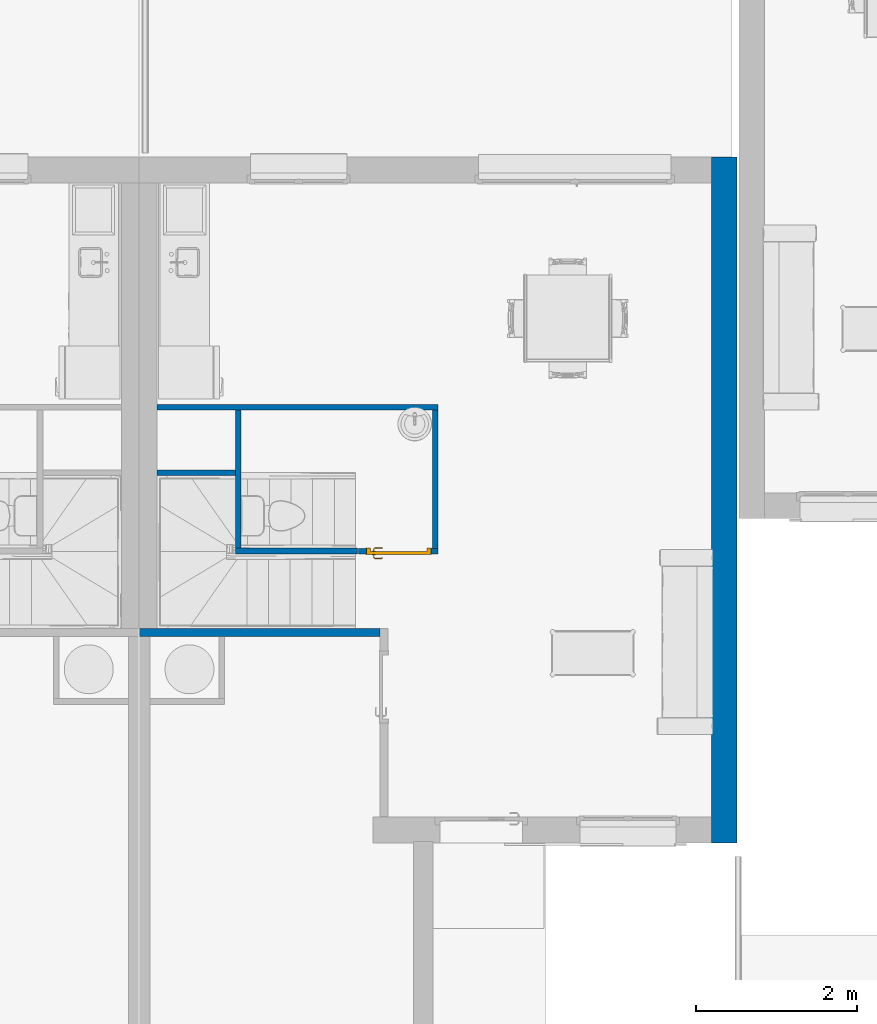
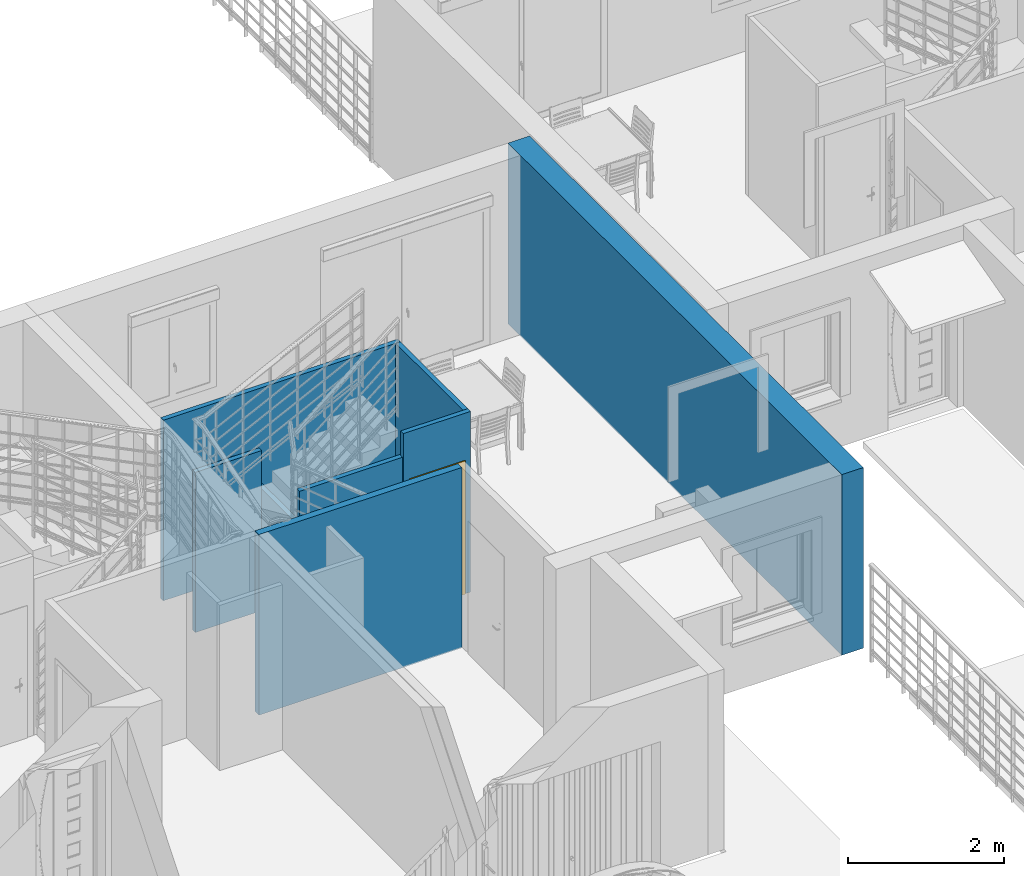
# One storey, part 11 of 33: 8 walls, 1 door, 1 opening.
"""IFC2X3 building model written with IfcOpenShell, lengths in metres."""

from ifc_helpers import new_model, entity, si_unit, converted_unit, derived_unit, direction, frame, frame_2d, origin, place, context, subcontext, project, spatial, rectangle, extrude, faceted_brep, source, transform, mapped, material, material_list, layer, layer_set, layer_usage, type_object, type_shapes, element, fill, save


model = new_model("IFC2X3")

# Units and contexts
model_context = context("Model", 3, precision=1e-05, world=origin(), true_north=direction((6.12303176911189e-17, 1.0)))
context_of_model = context(None, 3, precision=1e-05, world=origin(), true_north=direction((6.12303176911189e-17, 1.0)))
body_context = subcontext(model_context, "Body", "Model", "MODEL_VIEW")
ifc_project = project(units=[si_unit("LENGTHUNIT", "METRE"), si_unit("AREAUNIT", "SQUARE_METRE"), si_unit("VOLUMEUNIT", "CUBIC_METRE"), converted_unit("PLANEANGLEUNIT", "DEGREE", entity("IfcRatioMeasure", 0.0174532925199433), si_unit("PLANEANGLEUNIT", "RADIAN"), dimensions=[0, 0, 0, 0, 0, 0, 0]), si_unit("MASSUNIT", "GRAM", prefix="KILO"), si_unit("TIMEUNIT", "SECOND"), si_unit("FREQUENCYUNIT", "HERTZ"), si_unit("THERMODYNAMICTEMPERATUREUNIT", "DEGREE_CELSIUS"), derived_unit("THERMALTRANSMITTANCEUNIT", [(si_unit("MASSUNIT", "GRAM", prefix="KILO"), 1), (si_unit("THERMODYNAMICTEMPERATUREUNIT", "KELVIN"), -1), (si_unit("TIMEUNIT", "SECOND"), -3)]), derived_unit("VOLUMETRICFLOWRATEUNIT", [(si_unit("LENGTHUNIT", "METRE"), 3), (si_unit("TIMEUNIT", "SECOND"), -1)]), si_unit("ELECTRICCURRENTUNIT", "AMPERE"), si_unit("ELECTRICVOLTAGEUNIT", "VOLT"), si_unit("POWERUNIT", "WATT"), si_unit("FORCEUNIT", "NEWTON", prefix="KILO"), si_unit("ILLUMINANCEUNIT", "LUX"), si_unit("LUMINOUSFLUXUNIT", "LUMEN"), si_unit("LUMINOUSINTENSITYUNIT", "CANDELA"), si_unit("PRESSUREUNIT", "PASCAL")], contexts=[model_context, context_of_model])

# Site, building, storey
site_placement = place(None, origin())
site = spatial("IfcSite", under=ifc_project, at=site_placement, Name="Surface", CompositionType="ELEMENT")
building_placement = place(site_placement, origin())
building = spatial("IfcBuilding", under=site, at=building_placement, CompositionType="ELEMENT")
storey_placement = place(building_placement, origin())
storey = spatial("IfcBuildingStorey", under=building, at=storey_placement, Name="Plan des fondations  Maisons 1 et 2", CompositionType="ELEMENT", Elevation=0.0)

# Walls
ifc_material_1 = material(Name="Enduit blanc cassé2")
ifc_layer_1 = layer(ifc_material_1, 0.02)
ifc_material_2 = material(Name="Parpaing")
ifc_layer_2 = layer(ifc_material_2, 0.2)
ifc_material_3 = material(Name="Isolant")
ifc_layer_3 = layer(ifc_material_3, 0.1)
ifc_layer_set_1 = layer_set([ifc_layer_1, ifc_layer_2, ifc_layer_3], Name="Mur de base:Ext. Parpaing 20 + Isolant 10 enduit blanc cassé")
ifc_layer_usage_1 = layer_usage(ifc_layer_set_1, "AXIS2", "POSITIVE", -0.16)
wall_type_1 = type_object("IfcWallType", Name="Mur de base:Ext. Parpaing 20 + Isolant 10 enduit blanc cassé", PredefinedType="STANDARD", material=ifc_layer_set_1)
wall_1_placement = place(storey_placement, frame((76.122889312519, 79.8877566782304, 0.0), z_axis=(0.0, 0.0, 1.0), x_axis=(0.0, 1.0, 0.0)))
element("IfcWallStandardCase", 1, at=wall_1_placement, inside=storey, type_object=wall_type_1, material=ifc_layer_usage_1, Name="Mur de base:Ext. Parpaing 20 + Isolant 10 enduit blanc cassé", ObjectType="Mur de base:Ext. Parpaing 20 + Isolant 10 enduit blanc cassé", context=body_context, shape_type="SweptSolid", body=[
    extrude(rectangle(XDim=8.54, YDim=0.319999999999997, at=frame_2d((4.27, 9.85322934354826e-16), x_axis=(-1.0, 0.0))), origin(), (0.0, 0.0, 1.0), 2.82),
])
ifc_material_4 = material(Name="Peinture - Blanc")
ifc_layer_4 = layer(ifc_material_4, 0.1)
ifc_layer_set_2 = layer_set([ifc_layer_4], Name="Mur de base:Int.  Platre 100 mm en blanc 2")
ifc_layer_usage_2 = layer_usage(ifc_layer_set_2, "AXIS2", "NEGATIVE", 0.05)
wall_type_2 = type_object("IfcWallType", Name="Mur de base:Int.  Platre 100 mm en blanc 2", PredefinedType="STANDARD", material=ifc_layer_set_2)
wall_2_placement = place(storey_placement, frame((71.8346263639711, 82.5077566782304, 0.0), z_axis=(0.0, 0.0, 1.0), x_axis=(-1.0, 0.0, 0.0)))
element("IfcWallStandardCase", 2, at=wall_2_placement, inside=storey, type_object=wall_type_2, material=ifc_layer_usage_2, Name="Mur de base:Int.  Platre 100 mm en blanc 2", ObjectType="Mur de base:Int.  Platre 100 mm en blanc 2", context=body_context, shape_type="SweptSolid", body=[
    extrude(rectangle(XDim=2.99500000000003, YDim=0.100000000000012, at=frame_2d((1.49750000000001, 0.0), x_axis=(-1.0, 0.0))), origin(), (0.0, 0.0, 1.0), 2.82),
])
ifc_layer_5 = layer(ifc_material_4, 0.07)
ifc_layer_set_3 = layer_set([ifc_layer_5], Name="Mur de base:Int.  Platre 70 mm en blanc")
ifc_layer_usage_3 = layer_usage(ifc_layer_set_3, "AXIS2", "NEGATIVE", 0.035)
wall_type_3 = type_object("IfcWallType", Name="Mur de base:Int.  Platre 70 mm en blanc", PredefinedType="STANDARD", material=ifc_layer_set_3)
wall_3_placement = place(storey_placement, frame((69.0546263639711, 85.3127566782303, 0.0)))
element("IfcWallStandardCase", 3, at=wall_3_placement, inside=storey, type_object=wall_type_3, material=ifc_layer_usage_3, Name="Mur de base:Int.  Platre 70 mm en blanc", ObjectType="Mur de base:Int.  Platre 70 mm en blanc", context=body_context, shape_type="SweptSolid", body=[
    extrude(rectangle(XDim=3.50211659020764, YDim=0.0699999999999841, at=frame_2d((1.75105829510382, 7.45931094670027e-16), x_axis=(-1.0, 0.0))), origin(), (0.0, 0.0, 1.0), 2.82),
])
ifc_layer_usage_4 = layer_usage(ifc_layer_set_3, "AXIS2", "NEGATIVE", 0.035)
wall_4_placement = place(storey_placement, frame((72.5217429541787, 83.5546279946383, 0.0), z_axis=(0.0, 0.0, 1.0), x_axis=(0.0, 1.0, 0.0)))
element("IfcWallStandardCase", 4, at=wall_4_placement, inside=storey, type_object=wall_type_3, material=ifc_layer_usage_4, Name="Mur de base:Int.  Platre 70 mm en blanc", ObjectType="Mur de base:Int.  Platre 70 mm en blanc", context=body_context, shape_type="SweptSolid", body=[
    extrude(rectangle(XDim=1.72312868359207, YDim=0.0700000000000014, at=frame_2d((0.861564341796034, 0.0), x_axis=(-1.0, 0.0))), origin(), (0.0, 0.0, 1.0), 2.82),
])
ifc_layer_usage_5 = layer_usage(ifc_layer_set_3, "AXIS2", "NEGATIVE", 0.035)
wall_5_placement = place(storey_placement, frame((70.0346263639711, 83.5227566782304, 0.0)))
element("IfcWallStandardCase", 5, at=wall_5_placement, inside=storey, type_object=wall_type_3, material=ifc_layer_usage_5, Name="Mur de base:Int.  Platre 70 mm en blanc", ObjectType="Mur de base:Int.  Platre 70 mm en blanc", context=body_context, shape_type="SweptSolid", body=[
    extrude(rectangle(XDim=1.52171659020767, YDim=0.0699999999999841, at=frame_2d((0.760858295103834, 3.60128593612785e-15), x_axis=(-1.0, 0.0))), origin(), (0.0, 0.0, 1.0), 2.45350535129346),
])
ifc_layer_usage_6 = layer_usage(ifc_layer_set_3, "AXIS2", "NEGATIVE", 0.035)
wall_6_placement = place(storey_placement, frame((70.0696263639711, 83.5577566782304, 0.0), z_axis=(0.0, 0.0, 1.0), x_axis=(0.0, 1.0, 0.0)))
element("IfcWallStandardCase", 6, at=wall_6_placement, inside=storey, type_object=wall_type_3, material=ifc_layer_usage_6, Name="Mur de base:Int.  Platre 70 mm en blanc", ObjectType="Mur de base:Int.  Platre 70 mm en blanc", context=body_context, shape_type="SweptSolid", body=[
    extrude(rectangle(XDim=1.71999999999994, YDim=0.0700000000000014, at=frame_2d((0.859999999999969, 0.0), x_axis=(-1.0, 0.0))), origin(), (0.0, 0.0, 1.0), 1.9),
])

# Wall, opening, door
ifc_layer_usage_7 = layer_usage(ifc_layer_set_3, "AXIS2", "NEGATIVE", 0.035)
wall_7_placement = place(storey_placement, frame((71.5663429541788, 83.5196279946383, 0.0)))
wall_7 = element("IfcWallStandardCase", 7, at=wall_7_placement, inside=storey, type_object=wall_type_3, material=ifc_layer_usage_7, Name="Mur de base:Int.  Platre 70 mm en blanc", ObjectType="Mur de base:Int.  Platre 70 mm en blanc", context=body_context, shape_type="SweptSolid", body=[
    extrude(rectangle(XDim=0.990399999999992, YDim=0.0699999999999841, at=frame_2d((0.495199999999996, 2.43208231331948e-15), x_axis=(-1.0, 0.0))), origin(), (0.0, 0.0, 1.0), 2.82),
])
opening_placement = place(wall_7_placement, frame((0.900399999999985, 0.035000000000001, 0.0)))
opening = element("IfcOpeningElement", 8, at=opening_placement, cuts=wall_7, Name="FR_Simple (R):73 x 204 - (70):1", ObjectType="Opening", context=body_context, shape_type="SweptSolid", body=[
    extrude(rectangle(XDim=2.075, YDim=0.799999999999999, at=frame_2d((1.0375, 0.4), x_axis=(1.0, 0.0))), frame((0.0, 0.0, 0.0), z_axis=(0.0, -1.0, 0.0), x_axis=(0.0, 0.0, 1.0)), (0.0, 0.0, 1.0), 0.07),
])
ifc_material_5 = material(Name="Poignée Porte")
ifc_material_6 = material(Name="Dormants Portes")
ifc_material_7 = material(Name="Panneaux Portes")
ifc_material_list_1 = material_list([ifc_material_5, ifc_material_6, ifc_material_7])
ifc_material_list_2 = material_list([ifc_material_5, ifc_material_6, ifc_material_7])
door_style = type_object("IfcDoorStyle", Name="73 x 204 - (70)", ConstructionType="NOTDEFINED", OperationType="SINGLE_SWING_LEFT", ParameterTakesPrecedence=False, Sizeable=False, material=ifc_material_list_2)
shared_shape = source(origin(), body_context, "Body", "Brep", [
    faceted_brep([(0.100352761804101, -0.0130000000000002, 0.766003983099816), (0.11, -0.0130000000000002, 0.770000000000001), (0.11, -0.0130000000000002, 0.980000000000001), (0.100352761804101, -0.0130000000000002, 0.983996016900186), (0.0900000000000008, -0.0130000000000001, 0.985358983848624), (0.0796472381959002, -0.0130000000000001, 0.983996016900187), (0.0700000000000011, -0.0130000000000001, 0.980000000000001), (0.0700000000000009, -0.0130000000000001, 0.770000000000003), (0.0796472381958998, -0.0130000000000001, 0.766003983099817), (0.0900000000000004, -0.0130000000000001, 0.764641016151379), (0.100352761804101, -0.00800000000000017, 0.983996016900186), (0.11, -0.00800000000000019, 0.980000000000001), (0.11, -0.00800000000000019, 0.770000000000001), (0.100352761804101, -0.00800000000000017, 0.766003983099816), (0.0900000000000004, -0.00800000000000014, 0.764641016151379), (0.0796472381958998, -0.0080000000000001, 0.766003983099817), (0.0700000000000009, -0.00800000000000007, 0.770000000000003), (0.0700000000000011, -0.00800000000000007, 0.980000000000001), (0.0796472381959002, -0.0080000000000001, 0.983996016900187), (0.0900000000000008, -0.00800000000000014, 0.985358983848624)], [[[0, 1, 2, 3, 4, 5, 6, 7, 8, 9]], [[10, 11, 12, 13, 14, 15, 16, 17, 18, 19]], [[16, 15, 8, 7]], [[8, 15, 14, 9]], [[14, 13, 0, 9]], [[13, 12, 1, 0]], [[2, 1, 12, 11]], [[11, 10, 3, 2]], [[3, 10, 19, 4]], [[19, 18, 5, 4]], [[18, 17, 6, 5]], [[7, 6, 17, 16]]]),
    faceted_brep([(0.100352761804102, 0.0319999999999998, 0.766003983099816), (0.110000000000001, 0.0319999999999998, 0.770000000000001), (0.11, 0.0319999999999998, 0.980000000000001), (0.100352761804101, 0.0319999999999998, 0.983996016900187), (0.0900000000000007, 0.0319999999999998, 0.985358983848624), (0.0796472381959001, 0.0319999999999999, 0.983996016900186), (0.0700000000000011, 0.0319999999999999, 0.980000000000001), (0.0700000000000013, 0.0319999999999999, 0.770000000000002), (0.0796472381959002, 0.0319999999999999, 0.766003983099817), (0.0900000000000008, 0.0319999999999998, 0.764641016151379), (0.100352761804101, 0.0369999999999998, 0.983996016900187), (0.11, 0.0369999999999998, 0.980000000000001), (0.110000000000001, 0.0369999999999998, 0.770000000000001), (0.100352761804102, 0.0369999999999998, 0.766003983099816), (0.0900000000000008, 0.0369999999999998, 0.764641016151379), (0.0796472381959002, 0.0369999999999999, 0.766003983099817), (0.0700000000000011, 0.0369999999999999, 0.770000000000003), (0.0700000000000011, 0.0369999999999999, 0.980000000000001), (0.0796472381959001, 0.0369999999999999, 0.983996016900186), (0.0900000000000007, 0.0369999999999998, 0.985358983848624)], [[[0, 1, 2, 3, 4, 5, 6, 7, 8, 9]], [[10, 11, 12, 13, 14, 15, 16, 17, 18, 19]], [[11, 10, 3, 2]], [[3, 10, 19, 4]], [[19, 18, 5, 4]], [[18, 17, 6, 5]], [[7, 6, 17, 16]], [[16, 15, 8, 7]], [[8, 15, 14, 9]], [[14, 13, 0, 9]], [[13, 12, 1, 0]], [[2, 1, 12, 11]]]),
    faceted_brep([(0.0879747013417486, -0.0130000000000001, 0.907780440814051), (0.0920252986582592, -0.0130000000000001, 0.907780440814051), (0.0960000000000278, -0.0130000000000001, 0.906999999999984), (0.0960000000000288, -0.0130000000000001, 0.893000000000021), (0.0920252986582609, -0.0130000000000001, 0.89221955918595), (0.0879747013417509, -0.0130000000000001, 0.892219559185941), (0.0839999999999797, -0.0130000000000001, 0.892999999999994), (0.0839999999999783, -0.0130000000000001, 0.90699999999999), (0.083999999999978, -0.0406509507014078, 0.906999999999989), (0.0879747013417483, -0.0390045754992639, 0.907780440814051), (0.104023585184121, -0.0550534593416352, 0.907780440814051), (0.105701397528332, -0.0510028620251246, 0.907780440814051), (0.0920252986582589, -0.0373267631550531, 0.907780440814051), (0.198521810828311, -0.0473891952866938, 0.90778044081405), (0.195657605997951, -0.0445249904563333, 0.90778044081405), (0.18917973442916, -0.0510028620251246, 0.90778044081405), (0.190857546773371, -0.0550534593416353, 0.90778044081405), (0.0960000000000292, -0.0356803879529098, 0.90699999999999), (0.0960000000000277, -0.0356803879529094, 0.893000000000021), (0.0920252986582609, -0.0373267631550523, 0.89221955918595), (0.105701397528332, -0.0510028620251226, 0.89221955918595), (0.104023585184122, -0.0550534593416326, 0.89221955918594), (0.0879747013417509, -0.0390045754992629, 0.89221955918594), (0.195657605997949, -0.044524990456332, 0.89221955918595), (0.19852181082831, -0.0473891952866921, 0.89221955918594), (0.19085754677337, -0.0550534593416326, 0.89221955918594), (0.18917973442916, -0.0510028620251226, 0.89221955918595), (0.0839999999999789, -0.0406509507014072, 0.892999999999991), (0.102377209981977, -0.0590281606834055, 0.906999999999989), (0.107347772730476, -0.0470281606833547, 0.90699999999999), (0.107347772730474, -0.0470281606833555, 0.893000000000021), (0.102377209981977, -0.0590281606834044, 0.892999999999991), (0.142307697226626, -0.0590281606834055, 0.906999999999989), (0.147440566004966, -0.053182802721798, 0.907878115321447), (0.192503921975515, -0.0590281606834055, 0.906999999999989), (0.147440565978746, -0.0470281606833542, 0.90699999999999), (0.187533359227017, -0.0470281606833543, 0.906999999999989), (0.187533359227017, -0.0470281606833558, 0.89300000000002), (0.147440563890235, -0.0470281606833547, 0.893000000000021), (0.147440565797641, -0.0531828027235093, 0.892121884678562), (0.192503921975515, -0.0590281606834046, 0.892999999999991), (0.152573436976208, -0.0590281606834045, 0.892999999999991), (0.192847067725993, -0.0417144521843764, 0.906999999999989), (0.201332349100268, -0.0501997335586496, 0.906999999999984), (0.201332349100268, -0.05019973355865, 0.892999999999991), (0.192847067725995, -0.0417144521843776, 0.893000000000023)], [[[0, 1, 2, 3, 4, 5, 6, 7]], [[8, 9, 0, 7]], [[9, 10, 11, 12, 1, 0]], [[13, 14, 15, 16]], [[12, 17, 2, 1]], [[3, 2, 17, 18]], [[18, 19, 4, 3]], [[19, 20, 21, 22, 5, 4]], [[23, 24, 25, 26]], [[22, 27, 6, 5]], [[7, 6, 27, 8]], [[28, 10, 9, 8]], [[11, 29, 17, 12]], [[18, 17, 29, 30]], [[30, 20, 19, 18]], [[21, 31, 27, 22]], [[8, 27, 31, 28]], [[32, 33, 10]], [[33, 32, 16]], [[10, 28, 32]], [[34, 16, 32]], [[33, 35, 11]], [[11, 10, 33]], [[15, 35, 33]], [[29, 11, 35]], [[35, 15, 36]], [[15, 33, 16]], [[30, 29, 35, 36, 37, 38]], [[20, 38, 39]], [[25, 40, 41]], [[31, 21, 41]], [[41, 21, 39]], [[39, 38, 26]], [[26, 25, 39]], [[38, 20, 30]], [[37, 26, 38]], [[20, 39, 21]], [[41, 39, 25]], [[28, 31, 41, 40, 34, 32]], [[42, 14, 13, 43, 44, 24, 23, 45]], [[43, 13, 16, 34]], [[14, 42, 36, 15]], [[37, 36, 42, 45]], [[45, 23, 26, 37]], [[24, 44, 40, 25]], [[34, 40, 44, 43]]]),
    faceted_brep([(0.0879747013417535, 0.0369999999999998, 0.892219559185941), (0.092025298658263, 0.0369999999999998, 0.892219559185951), (0.0960000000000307, 0.0369999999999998, 0.893000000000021), (0.096000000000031, 0.0369999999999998, 0.90699999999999), (0.0920252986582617, 0.0369999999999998, 0.907780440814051), (0.0879747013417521, 0.0369999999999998, 0.907780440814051), (0.0839999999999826, 0.0369999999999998, 0.90699999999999), (0.0839999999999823, 0.0369999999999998, 0.892999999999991), (0.0960000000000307, 0.0594852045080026, 0.893000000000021), (0.0960000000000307, 0.0594852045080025, 0.90699999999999), (0.092025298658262, 0.0611315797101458, 0.907780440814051), (0.105838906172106, 0.0749451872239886, 0.907780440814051), (0.104161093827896, 0.0789957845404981, 0.907780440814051), (0.0879747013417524, 0.0628093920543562, 0.907780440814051), (0.195684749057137, 0.0684673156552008, 0.907780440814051), (0.198548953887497, 0.071331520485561, 0.907780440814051), (0.190884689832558, 0.0789957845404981, 0.907780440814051), (0.189206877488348, 0.0749451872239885, 0.907780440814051), (0.0839999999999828, 0.0644557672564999, 0.90699999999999), (0.0839999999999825, 0.0644557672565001, 0.892999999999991), (0.0879747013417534, 0.0628093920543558, 0.892219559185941), (0.104161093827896, 0.0789957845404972, 0.892219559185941), (0.105838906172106, 0.0749451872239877, 0.892219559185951), (0.0920252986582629, 0.0611315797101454, 0.892219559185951), (0.198548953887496, 0.07133152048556, 0.89221955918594), (0.195684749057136, 0.0684673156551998, 0.89221955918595), (0.189206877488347, 0.0749451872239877, 0.89221955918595), (0.190884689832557, 0.0789957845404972, 0.89221955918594), (0.107485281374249, 0.0709704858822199, 0.893000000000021), (0.107485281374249, 0.0709704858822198, 0.90699999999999), (0.102514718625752, 0.0829704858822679, 0.90699999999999), (0.102514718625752, 0.0829704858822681, 0.892999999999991), (0.147522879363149, 0.0709704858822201, 0.89300000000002), (0.187560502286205, 0.0709704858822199, 0.89300000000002), (0.187560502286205, 0.0709704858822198, 0.90699999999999), (0.147522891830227, 0.0709704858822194, 0.90699999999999), (0.147522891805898, 0.0771249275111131, 0.907878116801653), (0.192531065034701, 0.0829704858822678, 0.90699999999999), (0.152600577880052, 0.0829704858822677, 0.90699999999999), (0.192531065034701, 0.082970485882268, 0.892999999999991), (0.142445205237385, 0.0829704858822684, 0.892999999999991), (0.147522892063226, 0.0771249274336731, 0.892121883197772), (0.192874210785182, 0.0656567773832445, 0.89300000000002), (0.201359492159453, 0.0741420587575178, 0.892999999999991), (0.201359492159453, 0.0741420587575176, 0.90699999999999), (0.192874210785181, 0.0656567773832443, 0.90699999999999)], [[[0, 1, 2, 3, 4, 5, 6, 7]], [[3, 2, 8, 9]], [[9, 10, 4, 3]], [[10, 11, 12, 13, 5, 4]], [[14, 15, 16, 17]], [[13, 18, 6, 5]], [[7, 6, 18, 19]], [[19, 20, 0, 7]], [[20, 21, 22, 23, 1, 0]], [[24, 25, 26, 27]], [[23, 8, 2, 1]], [[9, 8, 28, 29]], [[29, 11, 10, 9]], [[12, 30, 18, 13]], [[19, 18, 30, 31]], [[31, 21, 20, 19]], [[22, 28, 8, 23]], [[28, 32, 33, 34, 35, 29]], [[11, 35, 36]], [[16, 37, 38]], [[30, 12, 38]], [[38, 12, 36]], [[36, 35, 17]], [[17, 16, 36]], [[35, 11, 29]], [[34, 17, 35]], [[11, 36, 12]], [[38, 36, 16]], [[31, 30, 38, 37, 39, 40]], [[40, 41, 21]], [[41, 40, 27]], [[21, 31, 40]], [[39, 27, 40]], [[41, 32, 22]], [[22, 21, 41]], [[26, 32, 41]], [[28, 22, 32]], [[32, 26, 33]], [[26, 41, 27]], [[42, 25, 24, 43, 44, 15, 14, 45]], [[34, 33, 42, 45]], [[45, 14, 17, 34]], [[15, 44, 37, 16]], [[39, 37, 44, 43]], [[43, 24, 27, 39]], [[25, 42, 33, 26]]]),
    faceted_brep([(0.0, 0.0, 0.0), (0.0, 0.0700000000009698, 0.0), (-0.00999999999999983, 0.0700000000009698, 0.0), (-0.00999999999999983, 0.0780000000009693, 0.0), (0.0499999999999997, 0.0780000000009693, 0.0), (0.0499999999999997, 0.032, 0.0), (0.0350000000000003, 0.032, 0.0), (0.0350000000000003, -0.00799999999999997, 0.0), (-0.00999999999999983, -0.00799999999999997, 0.0), (-0.00999999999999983, 0.0, 0.0), (0.0, 0.0, 2.075), (0.0, 0.0700000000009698, 2.075), (0.799999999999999, 0.0700000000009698, 2.075), (0.799999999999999, 0.0700000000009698, 0.0), (0.809999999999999, 0.0700000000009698, 0.0), (0.809999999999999, 0.0700000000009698, 2.085), (-0.00999999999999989, 0.0700000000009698, 2.085), (-0.00999999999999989, 0.0780000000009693, 2.085), (0.809999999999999, 0.0780000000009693, 2.085), (0.809999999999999, 0.0780000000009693, 0.0), (0.75, 0.0780000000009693, 0.0), (0.75, 0.0780000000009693, 2.025), (0.0499999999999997, 0.0780000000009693, 2.025), (0.0499999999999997, 0.032, 2.025), (0.75, 0.032, 2.025), (0.75, 0.032, 0.0), (0.764999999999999, 0.032, 0.0), (0.764999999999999, 0.032, 2.04), (0.0350000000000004, 0.032, 2.04), (0.0350000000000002, -0.00799999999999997, 2.04), (0.764999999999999, -0.00799999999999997, 2.04), (0.764999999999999, -0.00799999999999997, 0.0), (0.809999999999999, -0.00799999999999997, 0.0), (0.809999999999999, -0.00799999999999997, 2.085), (-0.00999999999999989, -0.00799999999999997, 2.085), (-0.00999999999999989, 0.0, 2.085), (0.809999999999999, 0.0, 2.085), (0.809999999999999, 0.0, 0.0), (0.799999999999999, 0.0, 0.0), (0.799999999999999, 0.0, 2.075)], [[[0, 1, 2, 3, 4, 5, 6, 7, 8, 9]], [[1, 0, 10, 11]], [[2, 1, 11, 12, 13, 14, 15, 16]], [[3, 2, 16, 17]], [[4, 3, 17, 18, 19, 20, 21, 22]], [[5, 4, 22, 23]], [[6, 5, 23, 24, 25, 26, 27, 28]], [[7, 6, 28, 29]], [[8, 7, 29, 30, 31, 32, 33, 34]], [[9, 8, 34, 35]], [[0, 9, 35, 36, 37, 38, 39, 10]], [[11, 10, 39, 12]], [[17, 16, 15, 18]], [[23, 22, 21, 24]], [[29, 28, 27, 30]], [[35, 34, 33, 36]], [[38, 37, 32, 31, 26, 25, 20, 19, 14, 13]], [[12, 39, 38, 13]], [[18, 15, 14, 19]], [[24, 21, 20, 25]], [[30, 27, 26, 31]], [[36, 33, 32, 37]]]),
    faceted_brep([(0.0350000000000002, -0.00799999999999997, 2.04), (0.0350000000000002, -0.00799999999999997, 0.0), (0.764999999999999, -0.00799999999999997, 0.0), (0.764999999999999, -0.00799999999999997, 2.04), (0.0350000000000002, 0.032, 2.04), (0.764999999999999, 0.032, 2.04), (0.764999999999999, 0.032, 0.0), (0.0350000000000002, 0.032, 0.0)], [[[0, 1, 2, 3]], [[4, 5, 6, 7]], [[1, 0, 4, 7]], [[2, 1, 7, 6]], [[3, 2, 6, 5]], [[0, 3, 5, 4]]]),
])
type_shapes(door_style, [shared_shape])
door_placement = place(opening_placement, frame((-0.800000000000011, -0.0699999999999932, 0.0)))
door = element("IfcDoor", 9, at=door_placement, inside=storey, type_object=door_style, material=ifc_material_list_1, Name="FR_Simple (R):73 x 204 - (70)", ObjectType="73 x 204 - (70)", OverallHeight=2.075, OverallWidth=0.8, context=body_context, shape_type="MappedRepresentation", body=[
    mapped(shared_shape, transform((0.0, 0.0, 0.0), scale=1.0)),
])
fill(opening, door)

# Wall
ifc_layer_usage_8 = layer_usage(ifc_layer_set_3, "AXIS2", "NEGATIVE", 0.035)
wall_8_placement = place(storey_placement, frame((70.0346263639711, 84.4948372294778, 0.0), z_axis=(0.0, 0.0, 1.0), x_axis=(-1.0, 0.0, 0.0)))
element("IfcWallStandardCase", 10, at=wall_8_placement, inside=storey, type_object=wall_type_3, material=ifc_layer_usage_8, Name="Mur de base:Int.  Platre 70 mm en blanc", ObjectType="Mur de base:Int.  Platre 70 mm en blanc", context=body_context, shape_type="SweptSolid", body=[
    extrude(rectangle(XDim=0.979999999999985, YDim=0.0699999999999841, at=frame_2d((0.489999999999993, 0.0), x_axis=(-1.0, 0.0))), origin(), (0.0, 0.0, 1.0), 2.5),
])

save(model, "model.ifc")
